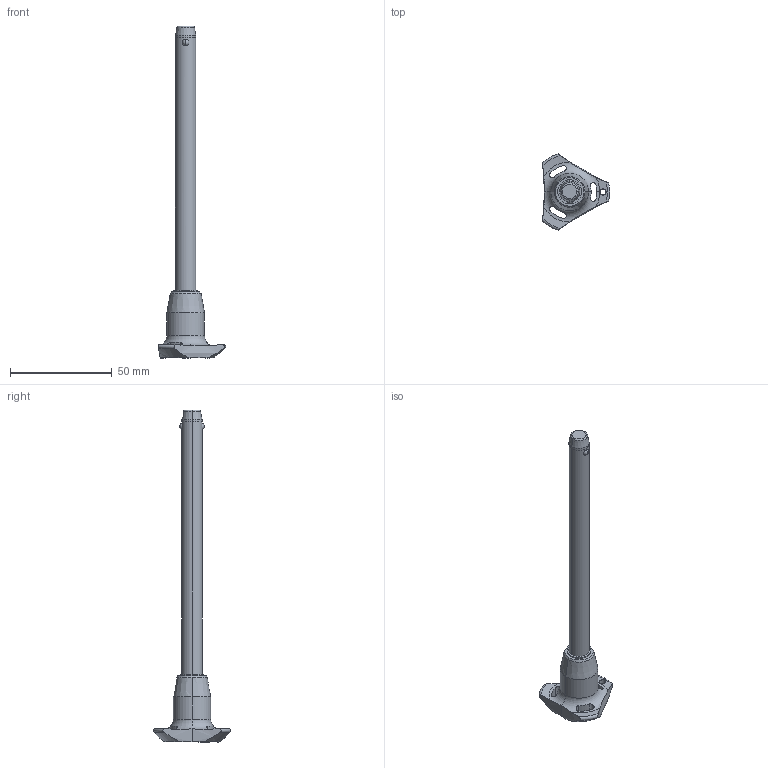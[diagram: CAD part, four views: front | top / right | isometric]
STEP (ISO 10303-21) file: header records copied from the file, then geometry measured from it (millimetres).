
FILE_DESCRIPTION (( 'STEP AP203' ), '1' );
FILE_NAME ('QR1726.M10-120-T.step', '2025-11-13T11:13:10', ( '' ), ( '' ), 'SwSTEP 2.0', 'SolidWorks 2019', '' );
FILE_SCHEMA (( 'CONFIG_CONTROL_DESIGN' ));
Length unit declared in the file: millimetre
Products named in the file (1): QR1726.M10-120-T
Bounding box: 33 x 37.51 x 162.9 mm (x, y, z)
Volume: 19831.8 mm3; surface area: 7863.3 mm2
Topology: 1 solids, 1 shells, 68 faces, 180 edges, 113 vertices
Faces by surface type: cylinder 32, cone 14, torus 11, sphere 6, plane 5
Entity records: 2823 total; most frequent: CARTESIAN_POINT 1083, ORIENTED_EDGE 360, DIRECTION 347, EDGE_CURVE 180, AXIS2_PLACEMENT_3D 154, VERTEX_POINT 113, CIRCLE 85, EDGE_LOOP 75
